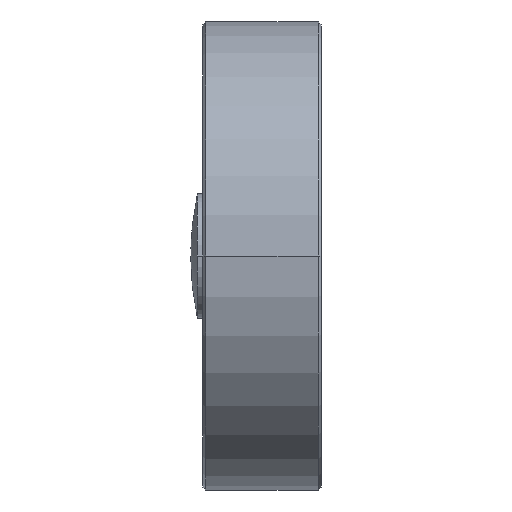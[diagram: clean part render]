
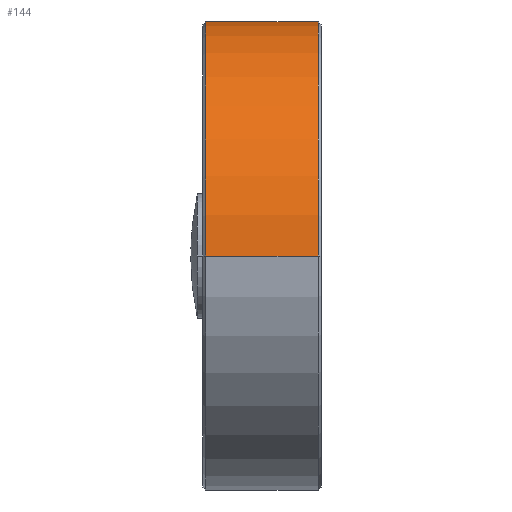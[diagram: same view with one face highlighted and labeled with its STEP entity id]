
A CAD part, left-side view. The second image highlights one B-rep face of the part: STEP entity #144.
In plain terms, the highlighted cylindrical face has radius 39.5 mm (diameter 79 mm), a partial arc.
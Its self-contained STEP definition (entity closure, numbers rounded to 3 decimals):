
#144=ADVANCED_FACE('',(#328),#329,.T.);
#328=FACE_OUTER_BOUND('',#698,.T.);
#329=CYLINDRICAL_SURFACE('',#699,39.5);
#698=EDGE_LOOP('',(#1217,#1218,#1219,#1220,#1221,#1222));
#699=AXIS2_PLACEMENT_3D('',#1223,#1224,#1225);
#1217=ORIENTED_EDGE('',*,*,#2399,.F.);
#1218=ORIENTED_EDGE('',*,*,#2400,.F.);
#1219=ORIENTED_EDGE('',*,*,#2401,.F.);
#1220=ORIENTED_EDGE('',*,*,#2398,.F.);
#1221=ORIENTED_EDGE('',*,*,#2402,.F.);
#1222=ORIENTED_EDGE('',*,*,#2403,.T.);
#1223=CARTESIAN_POINT('',(0.0,10.0,0.0));
#1224=DIRECTION('',(0.0,-1.0,0.0));
#1225=DIRECTION('',(1.0,0.0,0.0));
#2398=EDGE_CURVE('',#2914,#2910,#2916,.T.);
#2399=EDGE_CURVE('',#2917,#2918,#2919,.T.);
#2400=EDGE_CURVE('',#2920,#2917,#2921,.T.);
#2401=EDGE_CURVE('',#2910,#2920,#2922,.T.);
#2402=EDGE_CURVE('',#2923,#2914,#2924,.T.);
#2403=EDGE_CURVE('',#2923,#2918,#2925,.T.);
#2910=VERTEX_POINT('',#3628);
#2914=VERTEX_POINT('',#3633);
#2916=CIRCLE('',#3636,39.5);
#2917=VERTEX_POINT('',#3637);
#2918=VERTEX_POINT('',#3638);
#2919=LINE('',#3639,#3640);
#2920=VERTEX_POINT('',#3641);
#2921=CIRCLE('',#3642,39.5);
#2922=LINE('',#3643,#3644);
#2923=VERTEX_POINT('',#3645);
#2924=LINE('',#3646,#3647);
#2925=B_SPLINE_CURVE_WITH_KNOTS('',3,(#3648,#3649,#3650,#3651,#3652,#3653,#3654,#3655,#3656,#3657,#3658,#3659,#3660,#3661,#3662,#3663,#3664,#3665,#3666),.UNSPECIFIED.,.F.,.F.,(4,2,2,2,3,2,2,2,4),(2.944,3.189,3.435,3.68,3.925,4.171,4.416,4.661,4.907),.UNSPECIFIED.);
#3628=CARTESIAN_POINT('',(-39.5,0.5,0.));
#3633=CARTESIAN_POINT('',(39.5,0.5,0.));
#3636=AXIS2_PLACEMENT_3D('',#4612,#4613,#4614);
#3637=CARTESIAN_POINT('',(39.5,19.5,0.));
#3638=CARTESIAN_POINT('',(39.5,14.0,0.0));
#3639=CARTESIAN_POINT('',(39.5,10.0,0.));
#3640=VECTOR('',#4615,1.0);
#3641=CARTESIAN_POINT('',(-39.5,19.5,0.));
#3642=AXIS2_PLACEMENT_3D('',#4616,#4617,#4618);
#3643=CARTESIAN_POINT('',(-39.5,10.0,0.));
#3644=VECTOR('',#4619,1.0);
#3645=CARTESIAN_POINT('',(39.5,1.,0.0));
#3646=CARTESIAN_POINT('',(39.5,10.0,0.));
#3647=VECTOR('',#4620,1.0);
#3648=CARTESIAN_POINT('',(39.5,1.,0.0));
#3649=CARTESIAN_POINT('',(39.5,1.,0.818));
#3650=CARTESIAN_POINT('',(39.472,1.164,1.689));
#3651=CARTESIAN_POINT('',(39.371,1.828,3.29));
#3652=CARTESIAN_POINT('',(39.299,2.328,4.02));
#3653=CARTESIAN_POINT('',(39.164,3.48,5.172));
#3654=CARTESIAN_POINT('',(39.092,4.21,5.672));
#3655=CARTESIAN_POINT('',(38.99,5.811,6.336));
#3656=CARTESIAN_POINT('',(38.962,6.682,6.5));
#3657=CARTESIAN_POINT('',(38.962,7.5,6.5));
#3658=CARTESIAN_POINT('',(38.962,8.318,6.5));
#3659=CARTESIAN_POINT('',(38.99,9.189,6.336));
#3660=CARTESIAN_POINT('',(39.092,10.79,5.672));
#3661=CARTESIAN_POINT('',(39.164,11.52,5.172));
#3662=CARTESIAN_POINT('',(39.299,12.672,4.02));
#3663=CARTESIAN_POINT('',(39.371,13.172,3.29));
#3664=CARTESIAN_POINT('',(39.472,13.836,1.689));
#3665=CARTESIAN_POINT('',(39.5,14.0,0.818));
#3666=CARTESIAN_POINT('',(39.5,14.0,0.));
#4612=CARTESIAN_POINT('',(0.0,0.5,0.0));
#4613=DIRECTION('',(0.0,-1.0,0.0));
#4614=DIRECTION('',(-1.0,0.0,0.0));
#4615=DIRECTION('',(0.0,-1.0,0.0));
#4616=CARTESIAN_POINT('',(0.0,19.5,0.0));
#4617=DIRECTION('',(0.0,1.0,0.0));
#4618=DIRECTION('',(-1.0,0.0,0.0));
#4619=DIRECTION('',(0.0,1.0,0.0));
#4620=DIRECTION('',(0.0,-1.0,0.0));
